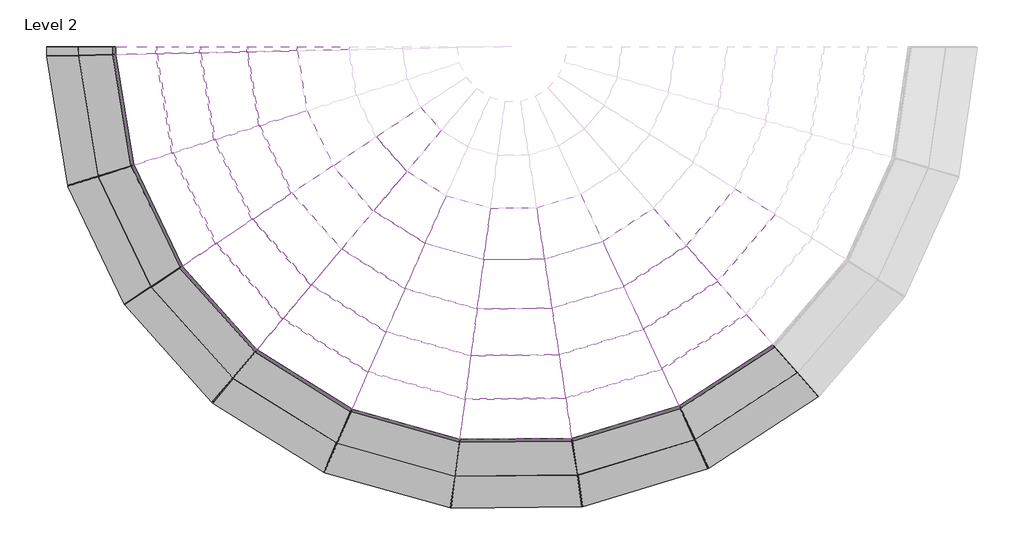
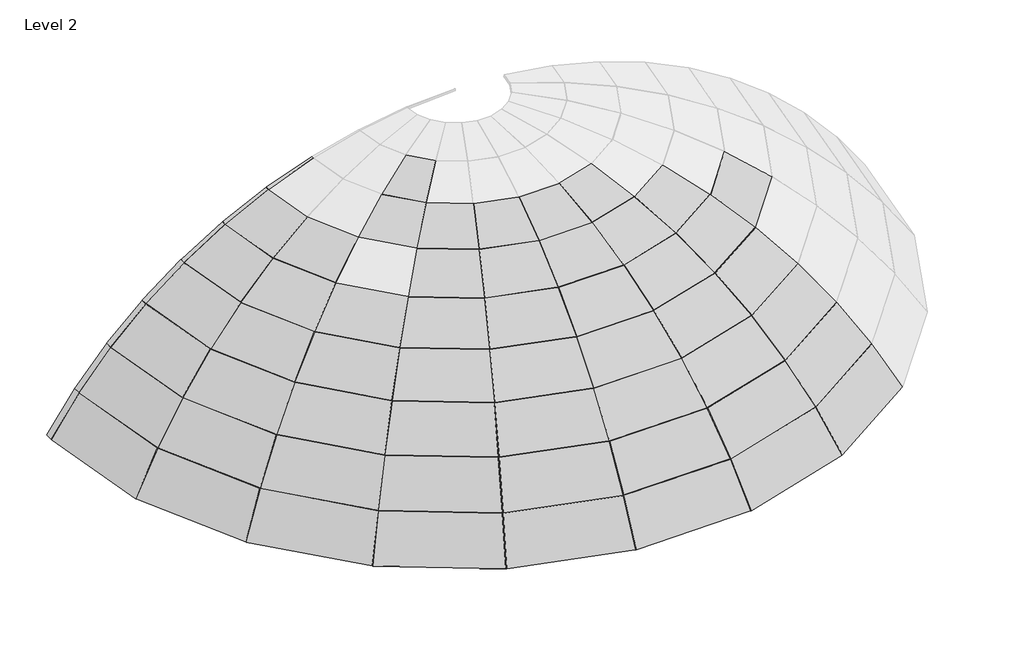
# One storey, part 1 of 2: 61 plates.
"""IFC4 building model written with IfcOpenShell, lengths in millimetres."""

import ifcopenshell
import ifcopenshell.guid

model = None  # the IFC model being written
_history = None  # IfcOwnerHistory: only IFC2X3 demands one
_inside = {}  # id of a spatial element -> (the spatial element, [elements in it])
_under = {}  # id of a project, library or spatial element -> (it, [spatial elements below it])
_declared = {}  # id of a project -> (the project, [libraries it declares])
_typed = {}  # id of a type object -> (the type object, [elements of that type])
_made_of = {}  # id of a material, layer set ... -> (it, [elements and type objects made of it])


def new_model(schema):
    """Start an empty IFC model of exactly this schema.

    Asked for "IFC4X3", IfcOpenShell would pick the latest addendum, in which some entities
    have other attributes; the version numbers below select the first issue.
    IFC2X3 requires an IfcOwnerHistory on every rooted entity: one is made here for all.
    """
    global model, _history
    if schema == "IFC4X3":
        model = ifcopenshell.file(schema_version=(4, 3, 0, 0))
    else:
        model = ifcopenshell.file(schema=schema)
    _inside.clear()
    _under.clear()
    _declared.clear()
    _typed.clear()
    _made_of.clear()
    _history = None
    if model.schema == "IFC2X3":
        org = make("IfcOrganization", Name="unknown")
        user = make(
            "IfcPersonAndOrganization",
            ThePerson=make("IfcPerson", FamilyName="unknown"),
            TheOrganization=org,
        )
        app = make(
            "IfcApplication",
            ApplicationDeveloper=org,
            Version="unknown",
            ApplicationFullName="unknown",
            ApplicationIdentifier="unknown",
        )
        _history = make(
            "IfcOwnerHistory",
            OwningUser=user,
            OwningApplication=app,
            ChangeAction="ADDED",
            CreationDate=0,
        )
    return model


def make(cls, **values):
    """One entity of the class cls with the attributes given. An attribute that is None is left unset."""
    return model.create_entity(
        cls, **{name: value for name, value in values.items() if value is not None}
    )


def rooted(cls, **values):
    """An entity with a GlobalId (a new one), such as an element, a storey or a relation."""
    return make(cls, GlobalId=ifcopenshell.guid.new(), OwnerHistory=_history, **values)


def si_unit(unit_type, name, prefix=None):
    """IfcSIUnit, for example si_unit("LENGTHUNIT", "METRE", prefix="MILLI")."""
    return make("IfcSIUnit", UnitType=unit_type, Prefix=prefix, Name=name)


def assignment(units):
    """IfcUnitAssignment: the units of a project."""
    return None if units is None else make("IfcUnitAssignment", Units=units)


def point(xyz):
    """IfcCartesianPoint."""
    return None if xyz is None else make("IfcCartesianPoint", Coordinates=xyz)


def direction(xyz):
    """IfcDirection."""
    return None if xyz is None else make("IfcDirection", DirectionRatios=xyz)


def frame(location, z_axis=None, x_axis=None):
    """IfcAxis2Placement3D, a coordinate frame: its origin and axes. An axis left out is left unset."""
    return make(
        "IfcAxis2Placement3D",
        Location=point(location),
        Axis=direction(z_axis),
        RefDirection=direction(x_axis),
    )


def origin():
    """The frame at (0, 0, 0) with its axes left unset."""
    return frame((0.0, 0.0, 0.0))


def place(relative_to, where):
    """IfcLocalPlacement: puts the frame where relative to a parent placement (None: the world)."""
    return make(
        "IfcLocalPlacement", PlacementRelTo=relative_to, RelativePlacement=where
    )


def context(
    kind, dimensions, precision=None, world=None, true_north=None, identifier=None
):
    """IfcGeometricRepresentationContext, for example the 3D "Model" context."""
    return make(
        "IfcGeometricRepresentationContext",
        ContextIdentifier=identifier,
        ContextType=kind,
        CoordinateSpaceDimension=dimensions,
        Precision=precision,
        WorldCoordinateSystem=world,
        TrueNorth=true_north,
    )


def project(units=None, contexts=None):
    """IfcProject with its units and contexts."""
    return rooted(
        "IfcProject",
        Name="project",
        RepresentationContexts=contexts,
        UnitsInContext=assignment(units),
    )


def spatial(cls, under=None, at=None, **own):
    """A site, building, storey or space (cls), placed at a placement, below another one or the project."""
    s = rooted(cls, ObjectPlacement=at, **own)
    if under is not None:
        _under.setdefault(under.id(), (under, []))[1].append(s)
    return s


def polyline(points):
    """IfcPolyline through the points."""
    return make("IfcPolyline", Points=[point(p) for p in points])


def outline(outer, holes=None, kind="AREA"):
    """IfcArbitraryClosedProfileDef: a profile drawn as a closed curve; with holes, ...WithVoids."""
    if holes is None:
        return make("IfcArbitraryClosedProfileDef", ProfileType=kind, OuterCurve=outer)
    return make(
        "IfcArbitraryProfileDefWithVoids",
        ProfileType=kind,
        OuterCurve=outer,
        InnerCurves=holes,
    )


def extrude(swept, where, along, depth):
    """IfcExtrudedAreaSolid: the profile swept, set in the frame where, extruded along a direction by depth."""
    return make(
        "IfcExtrudedAreaSolid",
        SweptArea=swept,
        Position=where,
        ExtrudedDirection=direction(along),
        Depth=depth,
    )


def shape(context_of_items, identifier, shape_type, items):
    """IfcShapeRepresentation: the items that make up one representation, for example the "Body"."""
    return make(
        "IfcShapeRepresentation",
        ContextOfItems=context_of_items,
        RepresentationIdentifier=identifier,
        RepresentationType=shape_type,
        Items=items,
    )


def source(mapping_origin, context_of_items, identifier, shape_type, items):
    """IfcRepresentationMap: a shape defined once, which mapped items show again and again."""
    return make(
        "IfcRepresentationMap",
        MappingOrigin=mapping_origin,
        MappedRepresentation=shape(context_of_items, identifier, shape_type, items),
    )


def transform(
    local_origin,
    x_axis=None,
    y_axis=None,
    z_axis=None,
    scale=None,
    scale2=None,
    scale3=None,
    uniform=True,
):
    """IfcCartesianTransformationOperator3D, or its non-uniform kind. x_axis, y_axis, z_axis: its Axis1, 2, 3."""
    if uniform:
        return make(
            "IfcCartesianTransformationOperator3D",
            Axis1=direction(x_axis),
            Axis2=direction(y_axis),
            LocalOrigin=point(local_origin),
            Scale=scale,
            Axis3=direction(z_axis),
        )
    return make(
        "IfcCartesianTransformationOperator3DnonUniform",
        Axis1=direction(x_axis),
        Axis2=direction(y_axis),
        LocalOrigin=point(local_origin),
        Scale=scale,
        Axis3=direction(z_axis),
        Scale2=scale2,
        Scale3=scale3,
    )


def mapped(mapping_source, mapping_target):
    """IfcMappedItem: shows the shape of a source again, moved by a transform."""
    return make(
        "IfcMappedItem", MappingSource=mapping_source, MappingTarget=mapping_target
    )


def made_of(thing, what):
    """Note that an element or type object is made of a material, layer set ...; save() writes the relation."""
    if what is not None:
        _made_of.setdefault(what.id(), (what, []))[1].append(thing)
    return thing


def element(
    cls,
    number,
    at=None,
    inside=None,
    cuts=None,
    type_object=None,
    material=None,
    context=None,
    identifier="Body",
    shape_type=None,
    held_by="IfcProductDefinitionShape",
    body=None,
    shapes=None,
    **own,
):
    """One element of the class cls, such as IfcWall. Its Tag is "e" and its number.

    at: its placement. inside: the storey or other place that contains it. cuts: it is an
    opening in that element (IfcRelVoidsElement). A single representation is given by context,
    identifier, shape_type and body (its items); several are given by shapes. held_by: the class
    of the entity that holds the representations. save() writes the other relations.
    """
    e = rooted(cls, Tag="e%d" % number, ObjectPlacement=at, **own)
    if body is not None:
        shapes = [shape(context, identifier, shape_type, body)]
    if shapes is not None:
        e.Representation = make(held_by, Representations=shapes)
    if inside is not None:
        _inside.setdefault(inside.id(), (inside, []))[1].append(e)
    if cuts is not None:
        rooted(
            "IfcRelVoidsElement", RelatingBuildingElement=cuts, RelatedOpeningElement=e
        )
    if type_object is not None:
        _typed.setdefault(type_object.id(), (type_object, []))[1].append(e)
    return made_of(e, material)


def aggregate(whole, parts):
    """IfcRelAggregates: a whole, such as a stair, and the parts it consists of."""
    return rooted("IfcRelAggregates", RelatingObject=whole, RelatedObjects=parts)


def save(model, path):
    """Write the relations noted so far, then the file.

    IfcRelAggregates (storeys below a building ...), IfcRelContainedInSpatialStructure (elements
    in a storey), IfcRelDefinesByType, IfcRelAssociatesMaterial and IfcRelDeclares: one each for
    every whole, place, type object, material and project.
    """
    for whole, parts in _under.values():
        aggregate(whole, parts)
    for where, things in _inside.values():
        rooted(
            "IfcRelContainedInSpatialStructure",
            RelatedElements=things,
            RelatingStructure=where,
        )
    for kind, things in _typed.values():
        rooted("IfcRelDefinesByType", RelatedObjects=things, RelatingType=kind)
    for what, things in _made_of.values():
        rooted("IfcRelAssociatesMaterial", RelatedObjects=things, RelatingMaterial=what)
    for by, libraries in _declared.values():
        rooted("IfcRelDeclares", RelatingContext=by, RelatedDefinitions=libraries)
    model.write(path)


def system_panel_glazed_13021561(model_context):
    return source(origin(), model_context, "Body", "SweptSolid", [
        extrude(outline(polyline([(0.0, -171.3442302), (0.0, 171.3442302), (603.850318, 254.8723899), (603.850318, -254.8723899), (0.0, -171.3442302)])), frame((0.0, -44.45, 0.0), z_axis=(0.0, 1.0, 0.0), x_axis=(0.0, 0.0, 1.0)), (0.0, 0.0, 1.0), 25.4),
    ])


def system_panel_glazed_061b48de(model_context):
    return source(origin(), model_context, "Body", "SweptSolid", [
        extrude(outline(polyline([(0.0, -254.8723899), (0.0, 254.8723899), (604.1973941, 335.8518257), (604.1973941, -335.8518257), (0.0, -254.8723899)])), frame((0.0, -44.45, 0.0), z_axis=(0.0, 1.0, 0.0), x_axis=(0.0, 0.0, 1.0)), (0.0, 0.0, 1.0), 25.4),
    ])


def system_panel_glazed_016bef2d(model_context):
    return source(origin(), model_context, "Body", "SweptSolid", [
        extrude(outline(polyline([(0.0, -17.8934544), (0.0, 17.8934544), (609.573489, 23.5786596), (609.573489, -23.5786596), (0.0, -17.8934544)])), frame((0.0, -44.45, 0.0), z_axis=(0.0, 1.0, 0.0), x_axis=(0.0, 0.0, 1.0)), (0.0, 0.0, 1.0), 25.4),
    ])


def system_panel_glazed_37435722(model_context):
    return source(origin(), model_context, "Body", "SweptSolid", [
        extrude(outline(polyline([(0.0, -335.8518257), (0.0, 335.8518257), (604.6380348, 413.4727432), (604.6380348, -413.4727432), (0.0, -335.8518257)])), frame((0.0, -44.45, 0.0), z_axis=(0.0, 1.0, 0.0), x_axis=(0.0, 0.0, 1.0)), (0.0, 0.0, 1.0), 25.4),
    ])


def system_panel_glazed_80a3d3e6(model_context):
    return source(origin(), model_context, "Body", "SweptSolid", [
        extrude(outline(polyline([(0.0, -23.5786596), (0.0, 23.5786596), (609.5756424, 29.0280782), (609.5756424, -29.0280782), (0.0, -23.5786596)])), frame((0.0, -44.45, 0.0), z_axis=(0.0, 1.0, 0.0), x_axis=(0.0, 0.0, 1.0)), (0.0, 0.0, 1.0), 25.4),
    ])


def system_panel_glazed_72d94749(model_context):
    return source(origin(), model_context, "Body", "SweptSolid", [
        extrude(outline(polyline([(0.0, -413.4727432), (0.0, 413.4727432), (605.154476, 486.9589333), (605.154476, -486.9589333), (0.0, -413.4727432)])), frame((0.0, -44.45, 0.0), z_axis=(0.0, 1.0, 0.0), x_axis=(0.0, 0.0, 1.0)), (0.0, 0.0, 1.0), 25.4),
    ])


def system_panel_glazed_dfb34fb8(model_context):
    return source(origin(), model_context, "Body", "SweptSolid", [
        extrude(outline(polyline([(0.0, -29.0280782), (0.0, 29.0280782), (609.5781683, 34.187216), (609.5781683, -34.187216), (0.0, -29.0280782)])), frame((0.0, -44.45, 0.0), z_axis=(0.0, 1.0, 0.0), x_axis=(0.0, 0.0, 1.0)), (0.0, 0.0, 1.0), 25.4),
    ])


def system_panel_glazed_bedb6522(model_context):
    return source(origin(), model_context, "Body", "SweptSolid", [
        extrude(outline(polyline([(0.0, -486.9589333), (0.0, 486.9589333), (605.7259464, 555.575534), (605.7259464, -555.575534), (0.0, -486.9589333)])), frame((0.0, -44.45, 0.0), z_axis=(0.0, 1.0, 0.0), x_axis=(0.0, 0.0, 1.0)), (0.0, 0.0, 1.0), 25.4),
    ])


def system_panel_glazed_4cb8769e(model_context):
    return source(origin(), model_context, "Body", "SweptSolid", [
        extrude(outline(polyline([(0.0, -34.187216), (0.0, 34.187216), (609.5809659, 39.0044817), (609.5809659, -39.0044817), (0.0, -34.187216)])), frame((0.0, -44.45, 0.0), z_axis=(0.0, 1.0, 0.0), x_axis=(0.0, 0.0, 1.0)), (0.0, 0.0, 1.0), 25.4),
    ])


def system_panel_glazed_fface929(model_context):
    return source(origin(), model_context, "Body", "SweptSolid", [
        extrude(outline(polyline([(0.0, -555.575534), (0.0, 555.575534), (606.3295224, 618.6363794), (606.3295224, -618.6363794), (0.0, -555.575534)])), frame((0.0, -44.45, 0.0), z_axis=(0.0, 1.0, 0.0), x_axis=(0.0, 0.0, 1.0)), (0.0, 0.0, 1.0), 25.4),
    ])


def system_panel_glazed_607e1a56(model_context):
    return source(origin(), model_context, "Body", "SweptSolid", [
        extrude(outline(polyline([(0.0, -39.0044817), (0.0, 39.0044817), (609.5839234, 43.4317026), (609.5839234, -43.4317026), (0.0, -39.0044817)])), frame((0.0, -44.45, 0.0), z_axis=(0.0, 1.0, 0.0), x_axis=(0.0, 0.0, 1.0)), (0.0, 0.0, 1.0), 25.4),
    ])


def system_panel_glazed_fbbb24ac(model_context):
    return source(origin(), model_context, "Body", "SweptSolid", [
        extrude(outline(polyline([(0.0, -618.6363794), (0.0, 618.6363794), (606.9410625, 675.510861), (606.9410625, -675.510861), (0.0, -618.6363794)])), frame((0.0, -44.45, 0.0), z_axis=(0.0, 1.0, 0.0), x_axis=(0.0, 0.0, 1.0)), (0.0, 0.0, 1.0), 25.4),
    ])


def system_panel_glazed_fc5e8a38(model_context):
    return source(origin(), model_context, "Body", "SweptSolid", [
        extrude(outline(polyline([(0.0, -43.4317026), (0.0, 43.4317026), (609.586923, 47.4246064), (609.586923, -47.4246064), (0.0, -43.4317026)])), frame((0.0, -44.45, 0.0), z_axis=(0.0, 1.0, 0.0), x_axis=(0.0, 0.0, 1.0)), (0.0, 0.0, 1.0), 25.4),
    ])


def system_panel_glazed_294e71e8(model_context):
    return source(origin(), model_context, "Body", "SweptSolid", [
        extrude(outline(polyline([(0.0, -675.510861), (0.0, 675.510861), (607.5361787, 725.630234), (607.5361787, -725.630234), (0.0, -675.510861)])), frame((0.0, -44.45, 0.0), z_axis=(0.0, 1.0, 0.0), x_axis=(0.0, 0.0, 1.0)), (0.0, 0.0, 1.0), 25.4),
    ])


def system_panel_glazed_6a74a591(model_context):
    return source(origin(), model_context, "Body", "SweptSolid", [
        extrude(outline(polyline([(0.0, -47.4246064), (0.0, 47.4246064), (609.5898449, 50.9432642), (609.5898449, -50.9432642), (0.0, -47.4246064)])), frame((0.0, -44.45, 0.0), z_axis=(0.0, 1.0, 0.0), x_axis=(0.0, 0.0, 1.0)), (0.0, 0.0, 1.0), 25.4),
    ])


model = new_model("IFC4")

# Units and contexts
model_context = context("Model", 3, world=origin())
ifc_project = project(units=[si_unit("LENGTHUNIT", "METRE", prefix="MILLI")], contexts=[model_context])

# Site, building, storey
site = spatial("IfcSite", under=ifc_project)
building = spatial("IfcBuilding", under=site)
storey = spatial("IfcBuildingStorey", under=building, Name="Level 2", Elevation=3048.0)

# Plates
placement = place(None, origin())
system_panel_glazed_shape = system_panel_glazed_13021561(model_context)
element("IfcPlate", 1, ObjectType="System Panel : Glazed", at=placement, inside=storey, context=model_context, shape_type="MappedRepresentation", body=[
    mapped(system_panel_glazed_shape, transform((4891.7701581, 2802.8784217, 5974.3848), x_axis=(-0.666379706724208, 0.7456125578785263, 0.0), y_axis=(0.18629999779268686, 0.16650274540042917, -0.9682815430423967), z_axis=(-0.7219628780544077, -0.6452431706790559, -0.24986166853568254))),
])
system_panel_glazed_2_shape = system_panel_glazed_061b48de(model_context)
element("IfcPlate", 2, ObjectType="System Panel : Glazed", at=placement, inside=storey, context=model_context, shape_type="MappedRepresentation", body=[
    mapped(system_panel_glazed_2_shape, transform((6302.5953596, 1894.4424194, 5823.505752), x_axis=(-0.957172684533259, -0.28951761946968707, 0.0), y_axis=(-0.1002027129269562, 0.3312796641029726, -0.9381967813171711), z_axis=(0.2716244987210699, -0.8980163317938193, -0.34610229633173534))),
])
element("IfcPlate", 3, ObjectType="System Panel : Glazed", at=placement, inside=storey, context=model_context, shape_type="MappedRepresentation", body=[
    mapped(system_panel_glazed_2_shape, transform((5803.7786426, 1818.1218552, 5823.505752), x_axis=(-0.999950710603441, -0.00992856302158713, 0.0), y_axis=(-0.003436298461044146, 0.34608523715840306, -0.9381967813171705), z_axis=(0.00931494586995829, -0.9381505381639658, -0.34610229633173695))),
])
element("IfcPlate", 4, ObjectType="System Panel : Glazed", at=placement, inside=storey, context=model_context, shape_type="MappedRepresentation", body=[
    mapped(system_panel_glazed_2_shape, transform((5303.5448363, 1884.5227943, 5823.505752), x_axis=(-0.9627326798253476, 0.27045477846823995, 0.0), y_axis=(0.09360501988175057, 0.33320399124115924, -0.9381967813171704), z_axis=(-0.2537398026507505, -0.9032327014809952, -0.34610229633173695))),
])
element("IfcPlate", 5, ObjectType="System Panel : Glazed", at=placement, inside=storey, context=model_context, shape_type="MappedRepresentation", body=[
    mapped(system_panel_glazed_2_shape, transform((4841.9126452, 2088.3331617, 5823.505752), x_axis=(-0.8484960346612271, 0.5292017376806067, 0.0), y_axis=(0.1831579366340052, 0.29366642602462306, -0.9381967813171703), z_axis=(-0.49649536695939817, -0.7960562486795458, -0.3461022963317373))),
])
element("IfcPlate", 6, ObjectType="System Panel : Glazed", at=placement, inside=storey, context=model_context, shape_type="MappedRepresentation", body=[
    mapped(system_panel_glazed_2_shape, transform((4455.8126446, 2413.2481279, 5823.505752), x_axis=(-0.6663797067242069, 0.7456125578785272, 0.0), y_axis=(0.2580582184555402, 0.23063554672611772, -0.9381967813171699), z_axis=(-0.6995313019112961, -0.6251952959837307, -0.3461022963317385))),
])
system_panel_glazed_3_shape = system_panel_glazed_016bef2d(model_context)
element("IfcPlate", 7, ObjectType="System Panel : Glazed", at=placement, inside=storey, context=model_context, shape_type="MappedRepresentation", body=[
    mapped(system_panel_glazed_3_shape, transform((3984.0227305, 3584.2480745, 5823.505752), x_axis=(-0.009928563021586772, 0.9999507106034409, 0.0), y_axis=(0.34303296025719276, 0.0034059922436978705, -0.9393171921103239), z_axis=(-0.9392708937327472, -0.009326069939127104, -0.34304986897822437))),
])
system_panel_glazed_4_shape = system_panel_glazed_37435722(model_context)
element("IfcPlate", 8, ObjectType="System Panel : Glazed", at=placement, inside=storey, context=model_context, shape_type="MappedRepresentation", body=[
    mapped(system_panel_glazed_4_shape, transform((7069.5620274, 1632.4550273, 5614.3916465), x_axis=(-0.8378208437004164, -0.5459452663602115, 0.0), y_axis=(-0.23950918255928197, 0.36755659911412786, -0.8986309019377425), z_axis=(0.49060328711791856, -0.7528917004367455, -0.4387054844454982))),
])
element("IfcPlate", 9, ObjectType="System Panel : Glazed", at=placement, inside=storey, context=model_context, shape_type="MappedRepresentation", body=[
    mapped(system_panel_glazed_4_shape, transform((6466.7101739, 1351.8632919, 5614.3916465), x_axis=(-0.9571726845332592, -0.2895176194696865, 0.0), y_axis=(-0.12701296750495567, 0.41991690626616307, -0.8986309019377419), z_axis=(0.26016947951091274, -0.8601449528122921, -0.4387054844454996))),
])
element("IfcPlate", 10, ObjectType="System Panel : Glazed", at=placement, inside=storey, context=model_context, shape_type="MappedRepresentation", body=[
    mapped(system_panel_glazed_4_shape, transform((5809.4067086, 1251.2937448, 5614.3916465), x_axis=(-0.999950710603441, -0.009928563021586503, 0.0), y_axis=(-0.004355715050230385, 0.4386838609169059, -0.8986309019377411), z_axis=(0.00892211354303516, -0.8985866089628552, -0.43870548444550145))),
])
element("IfcPlate", 11, ObjectType="System Panel : Glazed", at=placement, inside=storey, context=model_context, shape_type="MappedRepresentation", body=[
    mapped(system_panel_glazed_4_shape, transform((5150.2359088, 1338.7919499, 5614.3916465), x_axis=(-0.9627326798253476, 0.2704547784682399, 0.0), y_axis=(0.11864999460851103, 0.42235610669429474, -0.898630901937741), z_axis=(-0.24303902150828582, -0.8651413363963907, -0.43870548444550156))),
])
element("IfcPlate", 12, ObjectType="System Panel : Glazed", at=placement, inside=storey, context=model_context, shape_type="MappedRepresentation", body=[
    mapped(system_panel_glazed_4_shape, transform((4541.9314383, 1607.3580507, 5614.3916465), x_axis=(-0.8484960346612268, 0.5292017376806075, 0.0), y_axis=(0.23216370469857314, 0.3722398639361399, -0.898630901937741), z_axis=(-0.4755570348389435, -0.762484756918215, -0.4387054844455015))),
])
element("IfcPlate", 13, ObjectType="System Panel : Glazed", at=placement, inside=storey, context=model_context, shape_type="MappedRepresentation", body=[
    mapped(system_panel_glazed_4_shape, transform((3664.6164613, 2588.9861788, 5614.3916465), x_axis=(-0.4309530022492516, 0.9023743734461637, 0.0), y_axis=(0.3958765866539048, 0.18906144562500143, -0.898630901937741), z_axis=(-0.8109014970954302, -0.3872676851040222, -0.4387054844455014))),
])
element("IfcPlate", 14, ObjectType="System Panel : Glazed", at=placement, inside=storey, context=model_context, shape_type="MappedRepresentation", body=[
    mapped(system_panel_glazed_4_shape, transform((3465.7911528, 3223.5179558, 5614.3916465), x_axis=(-0.16105005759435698, 0.9869462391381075, 0.0), y_axis=(0.4329787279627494, 0.07065354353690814, -0.8986309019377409), z_axis=(-0.8869003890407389, -0.1447245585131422, -0.4387054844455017))),
])
system_panel_glazed_5_shape = system_panel_glazed_80a3d3e6(model_context)
element("IfcPlate", 15, ObjectType="System Panel : Glazed", at=placement, inside=storey, context=model_context, shape_type="MappedRepresentation", body=[
    mapped(system_panel_glazed_5_shape, transform((3411.4680947, 3578.5631495, 5614.3916465), x_axis=(-0.009928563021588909, 0.999950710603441, 0.0), y_axis=(0.43513048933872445, 0.004320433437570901, -0.900357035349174), z_axis=(-0.900312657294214, -0.008939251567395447, -0.43515193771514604))),
])
system_panel_glazed_6_shape = system_panel_glazed_72d94749(model_context)
element("IfcPlate", 16, ObjectType="System Panel : Glazed", at=placement, inside=storey, context=model_context, shape_type="MappedRepresentation", body=[
    mapped(system_panel_glazed_6_shape, transform((7981.9695803, 1716.6622066, 5349.1336245), x_axis=(-0.6514433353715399, -0.7586972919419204, 0.0), y_axis=(-0.39962403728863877, 0.3431308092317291, -0.8500363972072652), z_axis=(0.6449203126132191, -0.5537505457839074, -0.5267239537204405))),
])
element("IfcPlate", 17, ObjectType="System Panel : Glazed", at=placement, inside=storey, context=model_context, shape_type="MappedRepresentation", body=[
    mapped(system_panel_glazed_6_shape, transform((7366.1994348, 1177.2280692, 5349.1336245), x_axis=(-0.8378208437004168, -0.5459452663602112, 0.0), y_axis=(-0.2875624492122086, 0.4413003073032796, -0.8500363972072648), z_axis=(0.46407334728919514, -0.7121782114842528, -0.5267239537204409))),
])
element("IfcPlate", 18, ObjectType="System Panel : Glazed", at=placement, inside=storey, context=model_context, shape_type="MappedRepresentation", body=[
    mapped(system_panel_glazed_6_shape, transform((6624.0185367, 831.7869379, 5349.1336245), x_axis=(-0.9571726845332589, -0.28951761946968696, 0.0), y_axis=(-0.15249586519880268, 0.5041657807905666, -0.850036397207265), z_axis=(0.2461005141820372, -0.8136316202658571, -0.5267239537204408))),
])
element("IfcPlate", 19, ObjectType="System Panel : Glazed", at=placement, inside=storey, context=model_context, shape_type="MappedRepresentation", body=[
    mapped(system_panel_glazed_6_shape, transform((5814.8013578, 707.9741034, 5349.1336245), x_axis=(-0.9999507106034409, -0.009928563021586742, 0.0), y_axis=(-0.005229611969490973, 0.5266979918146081, -0.8500363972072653), z_axis=(0.008439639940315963, -0.8499944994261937, -0.5267239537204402))),
])
element("IfcPlate", 20, ObjectType="System Panel : Glazed", at=placement, inside=storey, context=model_context, shape_type="MappedRepresentation", body=[
    mapped(system_panel_glazed_6_shape, transform((5003.2852724, 815.6945924, 5349.1336245), x_axis=(-0.9627326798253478, 0.2704547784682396, 0.0), y_axis=(0.142455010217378, 0.5070943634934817, -0.850036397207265), z_axis=(-0.22989640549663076, -0.8183578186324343, -0.5267239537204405))),
])
element("IfcPlate", 21, ObjectType="System Panel : Glazed", at=placement, inside=storey, context=model_context, shape_type="MappedRepresentation", body=[
    mapped(system_panel_glazed_6_shape, transform((4254.3915673, 1146.3307657, 5349.1336245), x_axis=(-0.8484960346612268, 0.5292017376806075, 0.0), y_axis=(0.2787432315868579, 0.44692318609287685, -0.8500363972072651), z_axis=(-0.4498407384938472, -0.7212525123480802, -0.5267239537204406))),
])
element("IfcPlate", 22, ObjectType="System Panel : Glazed", at=placement, inside=storey, context=model_context, shape_type="MappedRepresentation", body=[
    mapped(system_panel_glazed_6_shape, transform((3628.031739, 1673.4317295, 5349.1336245), x_axis=(-0.6663797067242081, 0.7456125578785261, 0.0), y_axis=(0.39273199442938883, 0.3509981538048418, -0.8500363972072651), z_axis=(-0.6337978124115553, -0.5664470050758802, -0.5267239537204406))),
])
element("IfcPlate", 23, ObjectType="System Panel : Glazed", at=placement, inside=storey, context=model_context, shape_type="MappedRepresentation", body=[
    mapped(system_panel_glazed_6_shape, transform((3174.3145736, 2354.8294067, 5349.1336245), x_axis=(-0.4309530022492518, 0.9023743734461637, 0.0), y_axis=(0.4753021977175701, 0.2269932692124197, -0.8500363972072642), z_axis=(-0.7670510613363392, -0.3663257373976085, -0.5267239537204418))),
])
element("IfcPlate", 24, ObjectType="System Panel : Glazed", at=placement, inside=storey, context=model_context, shape_type="MappedRepresentation", body=[
    mapped(system_panel_glazed_6_shape, transform((2929.5374445, 3136.0119832, 5349.1336245), x_axis=(-0.16105005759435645, 0.9869462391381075, 0.0), y_axis=(0.5198482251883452, 0.08482892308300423, -0.8500363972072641), z_axis=(-0.8389402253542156, -0.1368984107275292, -0.5267239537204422))),
])
system_panel_glazed_7_shape = system_panel_glazed_dfb34fb8(model_context)
element("IfcPlate", 25, ObjectType="System Panel : Glazed", at=placement, inside=storey, context=model_context, shape_type="MappedRepresentation", body=[
    mapped(system_panel_glazed_7_shape, transform((2862.6594283, 3573.1139994, 5349.1336245), x_axis=(-0.00992856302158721, 0.999950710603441, 0.0), y_axis=(0.522875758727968, 0.00519166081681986, -0.852393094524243), z_axis=(-0.8523510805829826, -0.008463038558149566, -0.5229015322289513))),
])
system_panel_glazed_8_shape = system_panel_glazed_bedb6522(model_context)
element("IfcPlate", 26, ObjectType="System Panel : Glazed", at=placement, inside=storey, context=model_context, shape_type="MappedRepresentation", body=[
    mapped(system_panel_glazed_8_shape, transform((7647.0354982, 746.2502367, 5030.3842663), x_axis=(-0.8378208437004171, -0.5459452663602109, 0.0), y_axis=(-0.33263037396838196, 0.5104626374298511, -0.7929596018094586), z_axis=(0.43291254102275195, -0.6643580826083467, -0.6092742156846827))),
])
element("IfcPlate", 27, ObjectType="System Panel : Glazed", at=placement, inside=storey, context=model_context, shape_type="MappedRepresentation", body=[
    mapped(system_panel_glazed_8_shape, transform((6772.9473644, 339.4141211, 5030.3842663), x_axis=(-0.957172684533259, -0.28951761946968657, 0.0), y_axis=(-0.17639562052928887, 0.5831806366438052, -0.7929596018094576), z_axis=(0.22957577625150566, -0.7589992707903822, -0.6092742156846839))),
])
element("IfcPlate", 28, ObjectType="System Panel : Glazed", at=placement, inside=storey, context=model_context, shape_type="MappedRepresentation", body=[
    mapped(system_panel_glazed_8_shape, transform((5819.9086437, 193.5961275, 5030.3842663), x_axis=(-0.9999507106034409, -0.009928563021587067, 0.0), y_axis=(-0.006049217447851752, 0.6092441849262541, -0.7929596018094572), z_axis=(0.007872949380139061, -0.7929205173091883, -0.6092742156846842))),
])
element("IfcPlate", 29, ObjectType="System Panel : Glazed", at=placement, inside=storey, context=model_context, shape_type="MappedRepresentation", body=[
    mapped(system_panel_glazed_8_shape, transform((4864.1624336, 320.4616954, 5030.3842663), x_axis=(-0.9627326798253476, 0.27045477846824, 0.0), y_axis=(0.16478112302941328, 0.5865681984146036, -0.7929596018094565), z_axis=(-0.21445971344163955, -0.7634081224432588, -0.6092742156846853))),
])
element("IfcPlate", 30, ObjectType="System Panel : Glazed", at=placement, inside=storey, context=model_context, shape_type="MappedRepresentation", body=[
    mapped(system_panel_glazed_8_shape, transform((3982.1684309, 709.8615795, 5030.3842663), x_axis=(-0.8484960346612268, 0.5292017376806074, 0.0), y_axis=(0.32242897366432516, 0.5169667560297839, -0.7929596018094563), z_axis=(-0.4196355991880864, -0.6728230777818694, -0.6092742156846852))),
])
element("IfcPlate", 31, ObjectType="System Panel : Glazed", at=placement, inside=storey, context=model_context, shape_type="MappedRepresentation", body=[
    mapped(system_panel_glazed_8_shape, transform((3244.4861559, 1330.643789, 5030.3842663), x_axis=(-0.6663797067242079, 0.7456125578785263, 0.0), y_axis=(0.4542825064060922, 0.4060079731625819, -0.792959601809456), z_axis=(-0.5912406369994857, -0.5284121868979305, -0.6092742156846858))),
])
element("IfcPlate", 32, ObjectType="System Panel : Glazed", at=placement, inside=storey, context=model_context, shape_type="MappedRepresentation", body=[
    mapped(system_panel_glazed_8_shape, transform((2710.1301905, 2133.1457471, 5030.3842663), x_axis=(-0.43095300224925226, 0.9023743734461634, 0.0), y_axis=(0.5497934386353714, 0.2625685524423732, -0.792959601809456), z_axis=(-0.7155464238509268, -0.3417283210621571, -0.6092742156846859))),
])
element("IfcPlate", 33, ObjectType="System Panel : Glazed", at=placement, inside=storey, context=model_context, shape_type="MappedRepresentation", body=[
    mapped(system_panel_glazed_8_shape, transform((2421.849012, 3053.1672971, 5030.3842663), x_axis=(-0.16105005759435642, 0.9869462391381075, 0.0), y_axis=(0.6013208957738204, 0.09812364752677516, -0.7929596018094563), z_axis=(-0.7826084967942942, -0.12770618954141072, -0.6092742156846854))),
])
system_panel_glazed_9_shape = system_panel_glazed_4cb8769e(model_context)
element("IfcPlate", 34, ObjectType="System Panel : Glazed", at=placement, inside=storey, context=model_context, shape_type="MappedRepresentation", body=[
    mapped(system_panel_glazed_9_shape, transform((2343.0848178, 3567.9551159, 5030.3842663), x_axis=(-0.00992856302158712, 0.9999507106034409, 0.0), y_axis=(0.60539129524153, 0.006010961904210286, -0.7959053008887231), z_axis=(-0.7958660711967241, -0.007902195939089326, -0.6054211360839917))),
])
system_panel_glazed_10_shape = system_panel_glazed_fface929(model_context)
element("IfcPlate", 35, ObjectType="System Panel : Glazed", at=placement, inside=storey, context=model_context, shape_type="MappedRepresentation", body=[
    mapped(system_panel_glazed_10_shape, transform((7909.2618568, 343.8313084, 4661.3310654), x_axis=(-0.8378208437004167, -0.5459452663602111, 0.0), y_axis=(-0.37427035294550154, 0.5743643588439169, -0.7280297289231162), z_axis=(0.3974643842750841, -0.6099584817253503, -0.6855455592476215))),
])
element("IfcPlate", 36, ObjectType="System Panel : Glazed", at=placement, inside=storey, context=model_context, shape_type="MappedRepresentation", body=[
    mapped(system_panel_glazed_10_shape, transform((6912.0073688, -120.3314305, 4661.3310654), x_axis=(-0.9571726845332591, -0.28951761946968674, 0.0), y_axis=(-0.19847751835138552, 0.6561854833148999, -0.7280297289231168), z_axis=(0.21077743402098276, -0.6968501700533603, -0.685545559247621))),
])
element("IfcPlate", 37, ObjectType="System Panel : Glazed", at=placement, inside=storey, context=model_context, shape_type="MappedRepresentation", body=[
    mapped(system_panel_glazed_10_shape, transform((5824.6774934, -286.6964033, 4661.3310654), x_axis=(-0.9999507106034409, -0.00992856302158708, 0.0), y_axis=(-0.006806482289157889, 0.6855117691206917, -0.7280297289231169), z_axis=(0.007228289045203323, -0.727993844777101, -0.6855455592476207))),
])
element("IfcPlate", 38, ObjectType="System Panel : Glazed", at=placement, inside=storey, context=model_context, shape_type="MappedRepresentation", body=[
    mapped(system_panel_glazed_10_shape, transform((4734.2586207, -141.954412, 4661.3310654), x_axis=(-0.9627326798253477, 0.27045477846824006, 0.0), y_axis=(0.18540907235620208, 0.6599971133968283, -0.7280297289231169), z_axis=(-0.19689911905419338, -0.7008980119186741, -0.6855455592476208))),
])
element("IfcPlate", 39, ObjectType="System Panel : Glazed", at=placement, inside=storey, context=model_context, shape_type="MappedRepresentation", body=[
    mapped(system_panel_glazed_10_shape, transform((3727.9842605, 302.315184, 4661.3310654), x_axis=(-0.8484960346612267, 0.5292017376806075, 0.0), y_axis=(0.362791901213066, 0.5816826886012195, -0.728029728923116), z_axis=(-0.3852745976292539, -0.6177303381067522, -0.6855455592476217))),
])
element("IfcPlate", 40, ObjectType="System Panel : Glazed", at=placement, inside=storey, context=model_context, shape_type="MappedRepresentation", body=[
    mapped(system_panel_glazed_10_shape, transform((2886.3563615, 1010.570817, 4661.3310654), x_axis=(-0.666379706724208, 0.7456125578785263, 0.0), y_axis=(0.5111513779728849, 0.4568336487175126, -0.7280297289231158), z_axis=(-0.5428281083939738, -0.4851442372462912, -0.685545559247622))),
])
element("IfcPlate", 41, ObjectType="System Panel : Glazed", at=placement, inside=storey, context=model_context, shape_type="MappedRepresentation", body=[
    mapped(system_panel_glazed_10_shape, transform((2276.7051557, 1926.1520364, 4661.3310654), x_axis=(-0.43095300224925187, 0.9023743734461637, 0.0), y_axis=(0.6186187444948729, 0.2954379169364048, -0.7280297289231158), z_axis=(-0.6569553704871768, -0.3137465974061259, -0.685545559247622))),
])
element("IfcPlate", 42, ObjectType="System Panel : Glazed", at=placement, inside=storey, context=model_context, shape_type="MappedRepresentation", body=[
    mapped(system_panel_glazed_10_shape, transform((1947.8027396, 2975.8123446, 4661.3310654), x_axis=(-0.16105005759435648, 0.9869462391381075, 0.0), y_axis=(0.676596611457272, 0.11040715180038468, -0.728029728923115), z_axis=(-0.7185262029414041, -0.11724922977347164, -0.6855455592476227))),
])
system_panel_glazed_11_shape = system_panel_glazed_607e1a56(model_context)
element("IfcPlate", 43, ObjectType="System Panel : Glazed", at=placement, inside=storey, context=model_context, shape_type="MappedRepresentation", body=[
    mapped(system_panel_glazed_11_shape, transform((1857.9400094, 3563.1380877, 4661.3310654), x_axis=(-0.009928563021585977, 0.9999507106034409, 0.0), y_axis=(0.6818520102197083, 0.00677014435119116, -0.7314588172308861), z_axis=(-0.731422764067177, -0.007262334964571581, -0.6818856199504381))),
])
system_panel_glazed_12_shape = system_panel_glazed_fbbb24ac(model_context)
element("IfcPlate", 44, ObjectType="System Panel : Glazed", at=placement, inside=storey, context=model_context, shape_type="MappedRepresentation", body=[
    mapped(system_panel_glazed_12_shape, transform((8150.2562471, -26.0045265, 4245.6645538), x_axis=(-0.8378208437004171, -0.5459452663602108, 0.0), y_axis=(-0.41208312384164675, 0.6323927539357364, -0.6559473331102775), z_axis=(0.35811134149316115, -0.5495663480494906, -0.7548066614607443))),
])
element("IfcPlate", 45, ObjectType="System Panel : Glazed", at=placement, inside=storey, context=model_context, shape_type="MappedRepresentation", body=[
    mapped(system_panel_glazed_12_shape, transform((7039.8079497, -542.8522613, 4245.6645538), x_axis=(-0.957172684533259, -0.2895176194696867, 0.0), y_axis=(-0.21852982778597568, 0.7224803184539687, -0.6559473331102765), z_axis=(0.1899083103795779, -0.6278548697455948, -0.7548066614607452))),
])
element("IfcPlate", 46, ObjectType="System Panel : Glazed", at=placement, inside=storey, context=model_context, shape_type="MappedRepresentation", body=[
    mapped(system_panel_glazed_12_shape, transform((5829.0602185, -728.1005635, 4245.6645538), x_axis=(-0.9999507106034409, -0.009928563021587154, 0.0), y_axis=(-0.0074941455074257, 0.7547694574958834, -0.6559473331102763), z_axis=(0.006512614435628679, -0.6559150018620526, -0.7548066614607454))),
])
element("IfcPlate", 47, ObjectType="System Panel : Glazed", at=placement, inside=storey, context=model_context, shape_type="MappedRepresentation", body=[
    mapped(system_panel_glazed_12_shape, transform((4614.8728719, -566.9295688, 4245.6645538), x_axis=(-0.9627326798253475, 0.27045477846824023, 0.0), y_axis=(0.20414106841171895, 0.7266770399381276, -0.6559473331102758), z_axis=(-0.17740409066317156, -0.6315019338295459, -0.7548066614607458))),
])
element("IfcPlate", 48, ObjectType="System Panel : Glazed", at=placement, inside=storey, context=model_context, shape_type="MappedRepresentation", body=[
    mapped(system_panel_glazed_12_shape, transform((3494.3808977, -72.2329569, 4245.6645538), x_axis=(-0.8484960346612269, 0.5292017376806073, 0.0), y_axis=(0.3994449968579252, 0.6404504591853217, -0.6559473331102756), z_axis=(-0.34712846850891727, -0.5565687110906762, -0.7548066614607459))),
])
element("IfcPlate", 49, ObjectType="System Panel : Glazed", at=placement, inside=storey, context=model_context, shape_type="MappedRepresentation", body=[
    mapped(system_panel_glazed_12_shape, transform((2557.2236538, 716.4135433, 4245.6645538), x_axis=(-0.6663797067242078, 0.7456125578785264, 0.0), y_axis=(0.5627933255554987, 0.5029878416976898, -0.6559473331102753), z_axis=(-0.4890825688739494, -0.43710999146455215, -0.7548066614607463))),
])
element("IfcPlate", 50, ObjectType="System Panel : Glazed", at=placement, inside=storey, context=model_context, shape_type="MappedRepresentation", body=[
    mapped(system_panel_glazed_12_shape, transform((1878.3737197, 1735.9182118, 4245.6645538), x_axis=(-0.430953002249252, 0.9023743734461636, 0.0), y_axis=(0.6811181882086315, 0.3252861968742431, -0.6559473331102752), z_axis=(-0.5919100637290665, -0.2826824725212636, -0.7548066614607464))),
])
element("IfcPlate", 51, ObjectType="System Panel : Glazed", at=placement, inside=storey, context=model_context, shape_type="MappedRepresentation", body=[
    mapped(system_panel_glazed_12_shape, transform((1512.1390901, 2904.7206751, 4245.6645538), x_axis=(-0.16105005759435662, 0.9869462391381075, 0.0), y_axis=(0.7449535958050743, 0.12156165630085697, -0.6559473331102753), z_axis=(-0.6473847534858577, -0.10564035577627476, -0.7548066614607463))),
])
system_panel_glazed_13_shape = system_panel_glazed_fc5e8a38(model_context)
element("IfcPlate", 52, ObjectType="System Panel : Glazed", at=placement, inside=storey, context=model_context, shape_type="MappedRepresentation", body=[
    mapped(system_panel_glazed_13_shape, transform((1412.0764512, 3558.711085, 4245.6645538), x_axis=(-0.009928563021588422, 0.9999507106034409, 0.0), y_axis=(0.7514934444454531, 0.007461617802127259, -0.6596983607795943), z_axis=(-0.6596658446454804, -0.006549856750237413, -0.7515304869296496))),
])
system_panel_glazed_14_shape = system_panel_glazed_294e71e8(model_context)
element("IfcPlate", 53, ObjectType="System Panel : Glazed", at=placement, inside=storey, context=model_context, shape_type="MappedRepresentation", body=[
    mapped(system_panel_glazed_14_shape, transform((8367.6087252, -359.5589097, 3787.5413967), x_axis=(-0.8378208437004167, -0.5459452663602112, 0.0), y_axis=(-0.445715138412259, 0.6840052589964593, -0.5774727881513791), z_axis=(0.31526853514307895, -0.48381873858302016, -0.8164099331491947))),
])
element("IfcPlate", 54, ObjectType="System Panel : Glazed", at=placement, inside=storey, context=model_context, shape_type="MappedRepresentation", body=[
    mapped(system_panel_glazed_14_shape, transform((7155.0711014, -923.9231631, 3787.5413967), x_axis=(-0.957172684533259, -0.2895176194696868, 0.0), y_axis=(-0.23636506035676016, 0.7814452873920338, -0.5774727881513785), z_axis=(0.16718854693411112, -0.5527411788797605, -0.8164099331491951))),
])
element("IfcPlate", 55, ObjectType="System Panel : Glazed", at=placement, inside=storey, context=model_context, shape_type="MappedRepresentation", body=[
    mapped(system_panel_glazed_14_shape, transform((5833.0129916, -1126.2023116, 3787.5413967), x_axis=(-0.999950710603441, -0.009928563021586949, 0.0), y_axis=(-0.008105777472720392, 0.8163696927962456, -0.5774727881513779), z_axis=(0.005733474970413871, -0.5774443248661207, -0.8164099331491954))),
])
element("IfcPlate", 56, ObjectType="System Panel : Glazed", at=placement, inside=storey, context=model_context, shape_type="MappedRepresentation", body=[
    mapped(system_panel_glazed_14_shape, transform((4507.1990446, -950.2140235, 3787.5413967), x_axis=(-0.9627326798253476, 0.27045477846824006, 0.0), y_axis=(0.22080196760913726, 0.7859845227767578, -0.5774727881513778), z_axis=(-0.15618027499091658, -0.5559519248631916, -0.8164099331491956))),
])
element("IfcPlate", 57, ObjectType="System Panel : Glazed", at=placement, inside=storey, context=model_context, shape_type="MappedRepresentation", body=[
    mapped(system_panel_glazed_14_shape, transform((3283.6943762, -410.0373618, 3787.5413967), x_axis=(-0.8484960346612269, 0.5292017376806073, 0.0), y_axis=(0.4320455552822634, 0.6927205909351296, -0.5774727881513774), z_axis=(-0.3055996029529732, -0.4899833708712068, -0.8164099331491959))),
])
element("IfcPlate", 58, ObjectType="System Panel : Glazed", at=placement, inside=storey, context=model_context, shape_type="MappedRepresentation", body=[
    mapped(system_panel_glazed_14_shape, transform((2260.3793598, 451.1135407, 3787.5413967), x_axis=(-0.6663797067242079, 0.7456125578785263, 0.0), y_axis=(0.6087254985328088, 0.5440390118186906, -0.5774727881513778), z_axis=(-0.4305709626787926, -0.3848161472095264, -0.8164099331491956))),
])
element("IfcPlate", 59, ObjectType="System Panel : Glazed", at=placement, inside=storey, context=model_context, shape_type="MappedRepresentation", body=[
    mapped(system_panel_glazed_14_shape, transform((1519.1191967, 1564.3466116, 3787.5413967), x_axis=(-0.4309530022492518, 0.9023743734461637, 0.0), y_axis=(0.7367074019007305, 0.3518343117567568, -0.5774727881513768), z_axis=(-0.5210966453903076, -0.24886363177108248, -0.8164099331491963))),
])
element("IfcPlate", 60, ObjectType="System Panel : Glazed", at=placement, inside=storey, context=model_context, shape_type="MappedRepresentation", body=[
    mapped(system_panel_glazed_14_shape, transform((1119.2147, 2840.6032054, 3787.5413967), x_axis=(-0.16105005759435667, 0.9869462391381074, 0.0), y_axis=(0.805752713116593, 0.13148286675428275, -0.577472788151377), z_axis=(-0.5699345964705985, -0.09300202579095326, -0.8164099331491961))),
])
system_panel_glazed_15_shape = system_panel_glazed_6a74a591(model_context)
element("IfcPlate", 61, ObjectType="System Panel : Glazed", at=placement, inside=storey, context=model_context, shape_type="MappedRepresentation", body=[
    mapped(system_panel_glazed_15_shape, transform((1009.9527788, 3554.718378, 3787.5413967), x_axis=(-0.009928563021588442, 0.999950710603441, 0.0), y_axis=(0.8136193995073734, 0.008078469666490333, -0.5813417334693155), z_axis=(-0.5813130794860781, -0.005771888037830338, -0.8136595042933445))),
])

save(model, "model.ifc")
